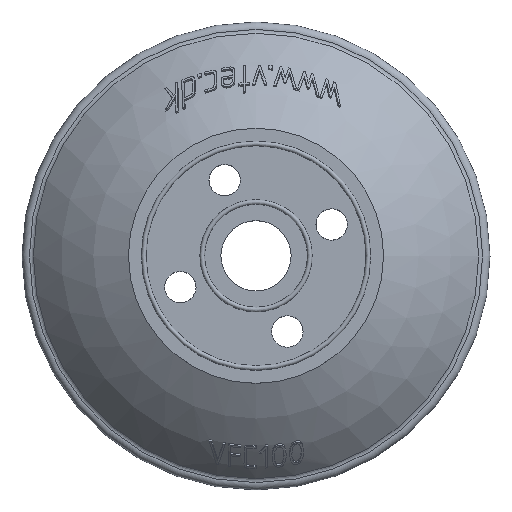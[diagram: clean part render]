
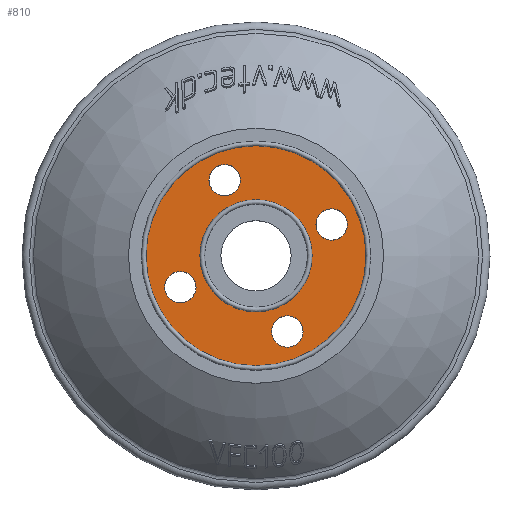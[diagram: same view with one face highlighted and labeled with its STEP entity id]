
A CAD part, top view. The second image highlights one B-rep face of the part: STEP entity #810.
In plain terms, the highlighted planar face has unit normal (0, 0, 1).
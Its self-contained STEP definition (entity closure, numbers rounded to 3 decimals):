
#810 = ADVANCED_FACE( '', ( #1745, #1746, #1747, #1748, #1749, #1750 ), #1751, .T. );
#1745 = FACE_OUTER_BOUND( '', #5386, .T. );
#1746 = FACE_BOUND( '', #5387, .T. );
#1747 = FACE_BOUND( '', #5388, .T. );
#1748 = FACE_BOUND( '', #5389, .T. );
#1749 = FACE_BOUND( '', #5390, .T. );
#1750 = FACE_BOUND( '', #5391, .T. );
#1751 = PLANE( '', #5392 );
#5386 = EDGE_LOOP( '', ( #9501 ) );
#5387 = EDGE_LOOP( '', ( #9502 ) );
#5388 = EDGE_LOOP( '', ( #9503 ) );
#5389 = EDGE_LOOP( '', ( #9504 ) );
#5390 = EDGE_LOOP( '', ( #9505 ) );
#5391 = EDGE_LOOP( '', ( #9506 ) );
#5392 = AXIS2_PLACEMENT_3D( '', #9507, #9508, #9509 );
#9501 = ORIENTED_EDGE( '', *, *, #10835, .T. );
#9502 = ORIENTED_EDGE( '', *, *, #10291, .T. );
#9503 = ORIENTED_EDGE( '', *, *, #11118, .T. );
#9504 = ORIENTED_EDGE( '', *, *, #10781, .F. );
#9505 = ORIENTED_EDGE( '', *, *, #10973, .T. );
#9506 = ORIENTED_EDGE( '', *, *, #10800, .T. );
#9507 = CARTESIAN_POINT( '', ( 12., 0., 12.75 ) );
#9508 = DIRECTION( '', ( 0., 0., 1. ) );
#9509 = DIRECTION( '', ( 1., 0., 0. ) );
#10291 = EDGE_CURVE( '', #11356, #11356, #11357, .F. );
#10781 = EDGE_CURVE( '', #12173, #12173, #12174, .T. );
#10800 = EDGE_CURVE( '', #12199, #12199, #12200, .F. );
#10835 = EDGE_CURVE( '', #12248, #12248, #12249, .F. );
#10973 = EDGE_CURVE( '', #12431, #12431, #12432, .F. );
#11118 = EDGE_CURVE( '', #12610, #12610, #12611, .F. );
#11356 = VERTEX_POINT( '', #13038 );
#11357 = CIRCLE( '', #13039, 3.35 );
#12173 = VERTEX_POINT( '', #16353 );
#12174 = CIRCLE( '', #16354, 12. );
#12199 = VERTEX_POINT( '', #16418 );
#12200 = CIRCLE( '', #16419, 3.35 );
#12248 = VERTEX_POINT( '', #16639 );
#12249 = CIRCLE( '', #16640, 23.5 );
#12431 = VERTEX_POINT( '', #17361 );
#12432 = CIRCLE( '', #17362, 3.35 );
#12610 = VERTEX_POINT( '', #17782 );
#12611 = CIRCLE( '', #17783, 3.35 );
#13038 = CARTESIAN_POINT( '', ( 19.518, 6.697, 12.75 ) );
#13039 = AXIS2_PLACEMENT_3D( '', #18363, #18364, #18365 );
#16353 = CARTESIAN_POINT( '', ( 12., 0., 12.75 ) );
#16354 = AXIS2_PLACEMENT_3D( '', #19003, #19004, #19005 );
#16418 = CARTESIAN_POINT( '', ( 10.047, -16.168, 12.75 ) );
#16419 = AXIS2_PLACEMENT_3D( '', #19023, #19024, #19025 );
#16639 = CARTESIAN_POINT( '', ( -23.5, 0., 12.75 ) );
#16640 = AXIS2_PLACEMENT_3D( '', #19051, #19052, #19053 );
#17361 = CARTESIAN_POINT( '', ( -3.347, 16.168, 12.75 ) );
#17362 = AXIS2_PLACEMENT_3D( '', #19179, #19180, #19181 );
#17782 = CARTESIAN_POINT( '', ( -12.818, -6.697, 12.75 ) );
#17783 = AXIS2_PLACEMENT_3D( '', #19296, #19297, #19298 );
#18363 = CARTESIAN_POINT( '', ( 16.168, 6.697, 12.75 ) );
#18364 = DIRECTION( '', ( 0., 0., 1. ) );
#18365 = DIRECTION( '', ( 1., 0., 0. ) );
#19003 = CARTESIAN_POINT( '', ( 0., 0., 12.75 ) );
#19004 = DIRECTION( '', ( 0., 0., 1. ) );
#19005 = DIRECTION( '', ( 1., 0., 0. ) );
#19023 = CARTESIAN_POINT( '', ( 6.697, -16.168, 12.75 ) );
#19024 = DIRECTION( '', ( 0., 0., 1. ) );
#19025 = DIRECTION( '', ( 1., 0., 0. ) );
#19051 = CARTESIAN_POINT( '', ( 0., 0., 12.75 ) );
#19052 = DIRECTION( '', ( 0., 0., -1. ) );
#19053 = DIRECTION( '', ( -1., 0., 0. ) );
#19179 = CARTESIAN_POINT( '', ( -6.697, 16.168, 12.75 ) );
#19180 = DIRECTION( '', ( 0., 0., 1. ) );
#19181 = DIRECTION( '', ( 1., 0., 0. ) );
#19296 = CARTESIAN_POINT( '', ( -16.168, -6.697, 12.75 ) );
#19297 = DIRECTION( '', ( 0., 0., 1. ) );
#19298 = DIRECTION( '', ( 1., 0., 0. ) );
